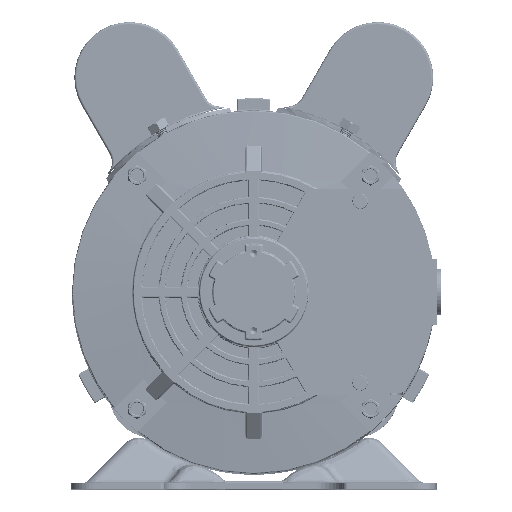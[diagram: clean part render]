
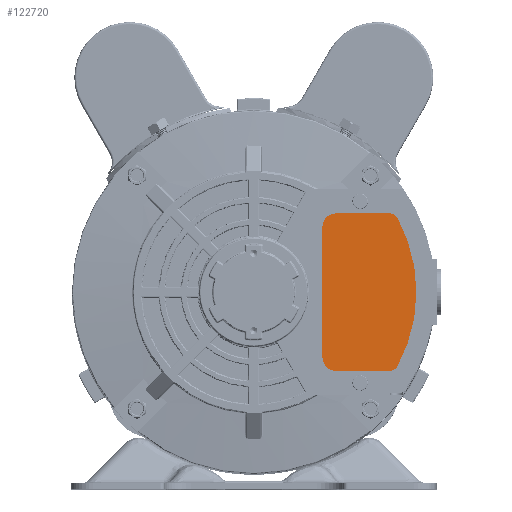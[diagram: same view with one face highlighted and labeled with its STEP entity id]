
A CAD part, top view. The second image highlights one B-rep face of the part: STEP entity #122720.
In plain terms, the highlighted planar face has unit normal (0, 0, 1).
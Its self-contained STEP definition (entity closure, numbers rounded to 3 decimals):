
#2692 = CARTESIAN_POINT ( 'NONE',  ( -162.199, 8.329, 395.3 ) ) ;
#3358 = CARTESIAN_POINT ( 'NONE',  ( -134.579, 37.829, 395.3 ) ) ;
#3456 = VERTEX_POINT ( 'NONE', #93517 ) ;
#3783 = VECTOR ( 'NONE', #85298, 1000. ) ;
#5506 = DIRECTION ( 'NONE',  ( 1., 0., 0. ) ) ;
#8912 = VERTEX_POINT ( 'NONE', #12744 ) ;
#10590 = EDGE_CURVE ( 'NONE', #150780, #8912, #92010, .T. ) ;
#11106 = AXIS2_PLACEMENT_3D ( 'NONE', #2692, #57119, #111526 ) ;
#12744 = CARTESIAN_POINT ( 'NONE',  ( -104.201, 43.829, 395.3 ) ) ;
#17321 = VERTEX_POINT ( 'NONE', #66643 ) ;
#18922 = PLANE ( 'NONE',  #89335 ) ;
#21222 = DIRECTION ( 'NONE',  ( 0., 0., 1. ) ) ;
#21225 = EDGE_LOOP ( 'NONE', ( #90391, #131577, #99542, #33492, #169242, #153407, #140240, #68570 ) ) ;
#25568 = EDGE_CURVE ( 'NONE', #74375, #150780, #88052, .T. ) ;
#26117 = DIRECTION ( 'NONE',  ( 0., -1., 0. ) ) ;
#28241 = EDGE_CURVE ( 'NONE', #50918, #59238, #105426, .T. ) ;
#30870 = CARTESIAN_POINT ( 'NONE',  ( -101.869, 43.829, 395.3 ) ) ;
#33492 = ORIENTED_EDGE ( 'NONE', *, *, #10590, .T. ) ;
#34409 = VECTOR ( 'NONE', #37662, 1000. ) ;
#37662 = DIRECTION ( 'NONE',  ( 0., -1., 0. ) ) ;
#38999 = DIRECTION ( 'NONE',  ( 0., 0., 1. ) ) ;
#48525 = VECTOR ( 'NONE', #51322, 1000. ) ;
#50918 = VERTEX_POINT ( 'NONE', #3358 ) ;
#51322 = DIRECTION ( 'NONE',  ( 1., 0., 0. ) ) ;
#57119 = DIRECTION ( 'NONE',  ( 0., 0., 1. ) ) ;
#59238 = VERTEX_POINT ( 'NONE', #69660 ) ;
#60571 = AXIS2_PLACEMENT_3D ( 'NONE', #64630, #119017, #173401 ) ;
#64630 = CARTESIAN_POINT ( 'NONE',  ( -128.579, 37.829, 395.3 ) ) ;
#66643 = CARTESIAN_POINT ( 'NONE',  ( -128.579, 43.829, 395.3 ) ) ;
#68570 = ORIENTED_EDGE ( 'NONE', *, *, #133856, .T. ) ;
#69660 = CARTESIAN_POINT ( 'NONE',  ( -134.579, -21.171, 395.3 ) ) ;
#73303 = CARTESIAN_POINT ( 'NONE',  ( -162.199, 8.329, 395.3 ) ) ;
#74375 = VERTEX_POINT ( 'NONE', #104404 ) ;
#75621 = DIRECTION ( 'NONE',  ( 0., -1., 0. ) ) ;
#75684 = EDGE_CURVE ( 'NONE', #3456, #74375, #173991, .T. ) ;
#76474 = AXIS2_PLACEMENT_3D ( 'NONE', #143362, #21222, #75621 ) ;
#77976 = EDGE_CURVE ( 'NONE', #17321, #50918, #137415, .T. ) ;
#78934 = EDGE_CURVE ( 'NONE', #8912, #17321, #153063, .T. ) ;
#85298 = DIRECTION ( 'NONE',  ( -1., 0., 0. ) ) ;
#87197 = CARTESIAN_POINT ( 'NONE',  ( -100.686, 41.738, 395.3 ) ) ;
#88052 = CIRCLE ( 'NONE', #11106, 70. ) ;
#89335 = AXIS2_PLACEMENT_3D ( 'NONE', #73303, #127665, #5506 ) ;
#90239 = EDGE_CURVE ( 'NONE', #104787, #3456, #119078, .T. ) ;
#90391 = ORIENTED_EDGE ( 'NONE', *, *, #90239, .T. ) ;
#92010 = CIRCLE ( 'NONE', #114788, 4. ) ;
#93392 = DIRECTION ( 'NONE',  ( 0., -1., 0. ) ) ;
#93517 = CARTESIAN_POINT ( 'NONE',  ( -104.201, -27.171, 395.3 ) ) ;
#93897 = CARTESIAN_POINT ( 'NONE',  ( -104.201, -23.171, 395.3 ) ) ;
#97113 = AXIS2_PLACEMENT_3D ( 'NONE', #93897, #148294, #26117 ) ;
#99542 = ORIENTED_EDGE ( 'NONE', *, *, #25568, .T. ) ;
#104404 = CARTESIAN_POINT ( 'NONE',  ( -100.686, -25.08, 395.3 ) ) ;
#104787 = VERTEX_POINT ( 'NONE', #168072 ) ;
#105426 = LINE ( 'NONE', #159810, #34409 ) ;
#111526 = DIRECTION ( 'NONE',  ( 0., -1., 0. ) ) ;
#114788 = AXIS2_PLACEMENT_3D ( 'NONE', #161154, #38999, #93392 ) ;
#119017 = DIRECTION ( 'NONE',  ( 0., 0., 1. ) ) ;
#119078 = LINE ( 'NONE', #173461, #48525 ) ;
#122720 = ADVANCED_FACE ( 'NONE', ( #141051 ), #18922, .T. ) ;
#127665 = DIRECTION ( 'NONE',  ( 0., 0., 1. ) ) ;
#131577 = ORIENTED_EDGE ( 'NONE', *, *, #75684, .T. ) ;
#133856 = EDGE_CURVE ( 'NONE', #59238, #104787, #153393, .T. ) ;
#137415 = CIRCLE ( 'NONE', #60571, 6. ) ;
#140240 = ORIENTED_EDGE ( 'NONE', *, *, #28241, .T. ) ;
#141051 = FACE_OUTER_BOUND ( 'NONE', #21225, .T. ) ;
#143362 = CARTESIAN_POINT ( 'NONE',  ( -128.579, -21.171, 395.3 ) ) ;
#148294 = DIRECTION ( 'NONE',  ( 0., 0., 1. ) ) ;
#150780 = VERTEX_POINT ( 'NONE', #87197 ) ;
#153063 = LINE ( 'NONE', #30870, #3783 ) ;
#153393 = CIRCLE ( 'NONE', #76474, 6. ) ;
#153407 = ORIENTED_EDGE ( 'NONE', *, *, #77976, .T. ) ;
#159810 = CARTESIAN_POINT ( 'NONE',  ( -134.579, 43.829, 395.3 ) ) ;
#161154 = CARTESIAN_POINT ( 'NONE',  ( -104.201, 39.829, 395.3 ) ) ;
#168072 = CARTESIAN_POINT ( 'NONE',  ( -128.579, -27.171, 395.3 ) ) ;
#169242 = ORIENTED_EDGE ( 'NONE', *, *, #78934, .T. ) ;
#173401 = DIRECTION ( 'NONE',  ( 0., -1., 0. ) ) ;
#173461 = CARTESIAN_POINT ( 'NONE',  ( -134.579, -27.171, 395.3 ) ) ;
#173991 = CIRCLE ( 'NONE', #97113, 4. ) ;
